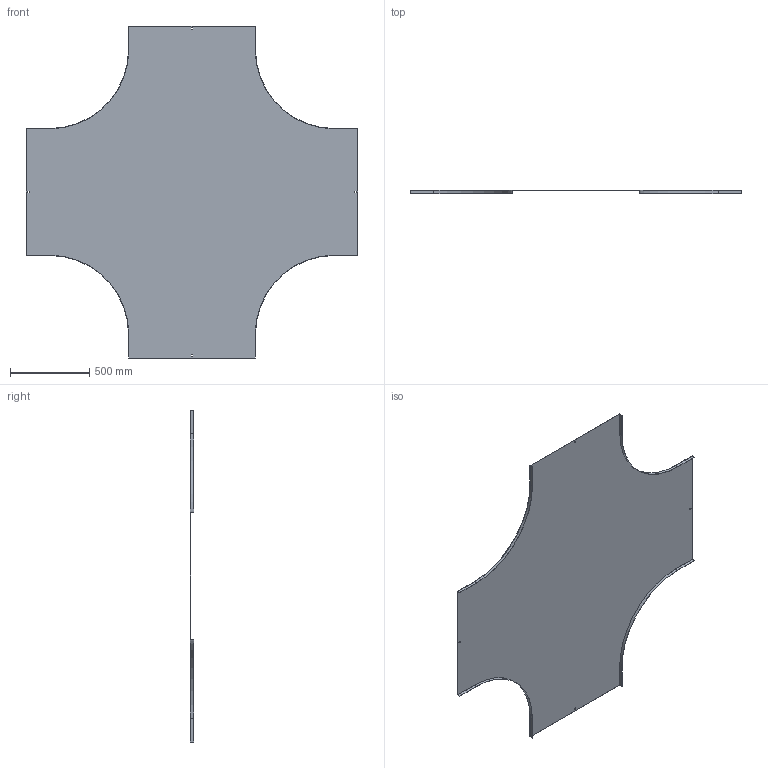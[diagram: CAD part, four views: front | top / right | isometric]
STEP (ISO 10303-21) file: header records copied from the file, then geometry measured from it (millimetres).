
FILE_DESCRIPTION (( 'STEP AP214' ), '1' );
FILE_NAME ('17N5R800.step', '2025-02-21T12:07:55', ( '' ), ( '' ), 'SwSTEP 2.0', 'SolidWorks 2023', '' );
FILE_SCHEMA (( 'AUTOMOTIVE_DESIGN' ));
Length unit declared in the file: millimetre
Products named in the file (1): 17N5R800
Bounding box: 2100 x 20 x 2100 mm (x, y, z)
Volume: 4531658.2 mm3; surface area: 6053935.1 mm2
Topology: 1 solids, 1 shells, 50 faces, 144 edges, 96 vertices
Faces by surface type: plane 42, cylinder 8
Entity records: 1663 total; most frequent: CARTESIAN_POINT 291, ORIENTED_EDGE 288, DIRECTION 262, EDGE_CURVE 144, LINE 128, VECTOR 128, VERTEX_POINT 96, AXIS2_PLACEMENT_3D 67
